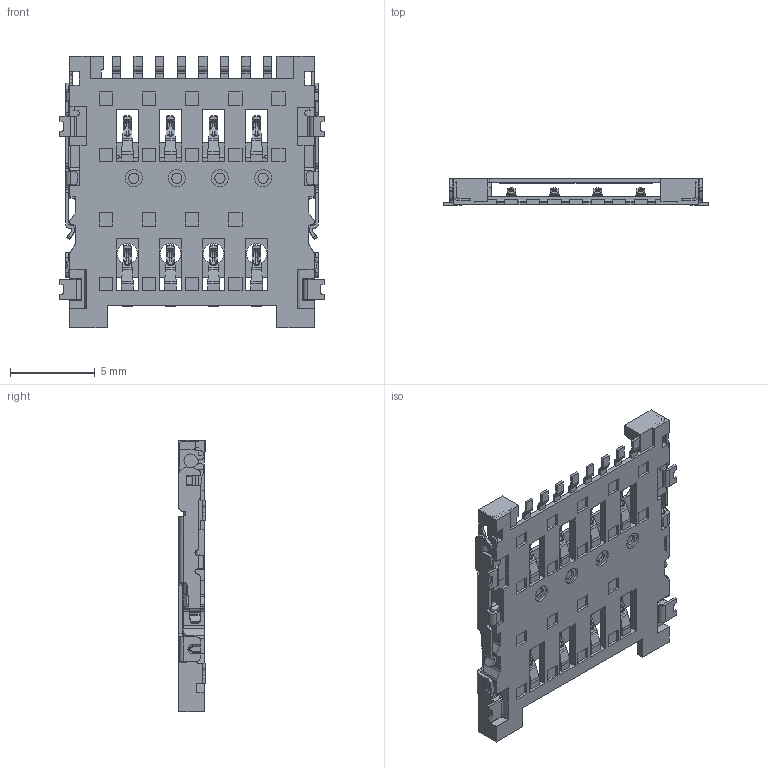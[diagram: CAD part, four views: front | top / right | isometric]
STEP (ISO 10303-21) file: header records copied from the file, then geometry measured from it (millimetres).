
FILE_DESCRIPTION((''),'2;1');
FILE_NAME('3D-MICRO_SIM_8PIN__STP-733620_ASM','2018-09-01T',('Administrator'),(''),'PRO/ENGINEER BY PARAMETRIC TECHNOLOGY CORPORATION, 2010280','PRO/ENGINEER BY PARAMETRIC TECHNOLOGY CORPORATION, 2010280','');
FILE_SCHEMA(('CONFIG_CONTROL_DESIGN'));
Products named in the file (15): HOUSING_1_1_1; MSBR_1_2; MSBR_1_2_1; LAYER_2_1_ASM; MSBR-180090; LAYER_1_ASM; MSBR-169060; LAYER_ASM; _X2_63A55730811A_X0__1_1_ASM; _X2_7AEF5B50_X0__ASM; MOLDING_ASM; SHELL-NEW_1_1; 8PIN_ASM; 3D-MICRO_SIM_8PIN__STP-733340_ASM; 3D-MICRO_SIM_8PIN__STP-733620_ASM
Assembly tree (14 placements, depth 8):
  3D-MICRO_SIM_8PIN__STP-733620_ASM
    3D-MICRO_SIM_8PIN__STP-733340_ASM
      8PIN_ASM
        MOLDING_ASM
          HOUSING_1_1_1
          _X2_7AEF5B50_X0__ASM
            _X2_63A55730811A_X0__1_1_ASM
              LAYER_2_1_ASM
                MSBR_1_2
                MSBR_1_2_1
              LAYER_1_ASM
                MSBR-180090
              LAYER_ASM
                MSBR-169060
        SHELL-NEW_1_1
Bounding box: 15.6 x 1.55 x 16.02 mm (x, y, z)
Volume: 123.8 mm3; surface area: 862.3 mm2
Topology: 6 solids, 6 shells, 2097 faces, 5470 edges, 3455 vertices
Faces by surface type: plane 1183, cylinder 540, torus 146, cone 114, bspline 114
Entity records: 71094 total; most frequent: CARTESIAN_POINT 18955, ORIENTED_EDGE 10940, DIRECTION 10695, EDGE_CURVE 5470, VECTOR 3823, LINE 3823, VERTEX_POINT 3455, AXIS2_PLACEMENT_3D 3436
